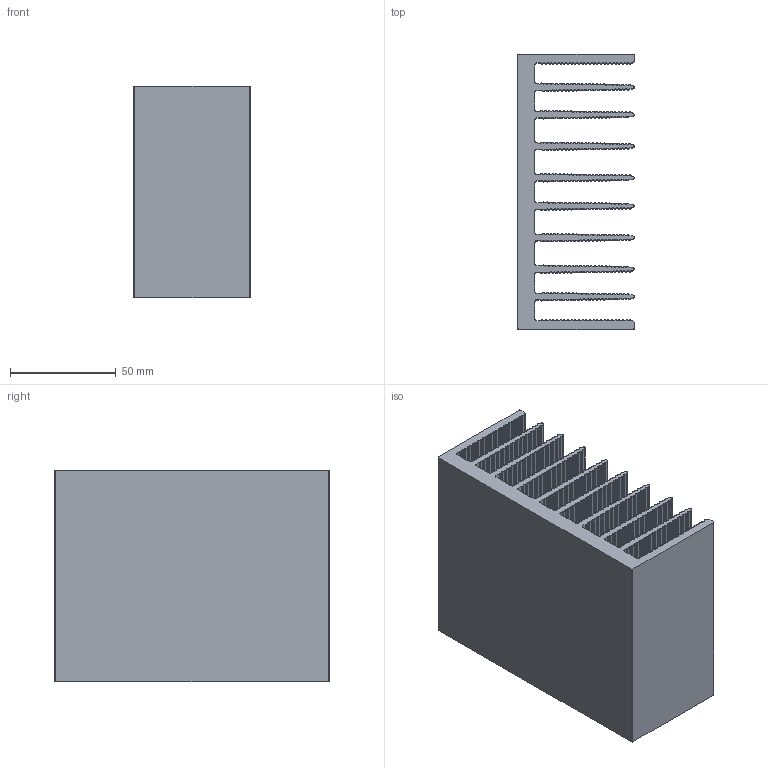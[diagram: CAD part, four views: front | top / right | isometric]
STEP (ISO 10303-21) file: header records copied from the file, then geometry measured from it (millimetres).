
FILE_DESCRIPTION (( 'STEP AP214' ), '1' );
FILE_NAME ('PR377.STEP', '2013-06-12T17:33:52', ( '' ), ( '' ), 'SwSTEP 2.0', 'SolidWorks 2013', '' );
FILE_SCHEMA (( 'AUTOMOTIVE_DESIGN' ));
Length unit declared in the file: millimetre
Products named in the file (1): PR377
Bounding box: 55 x 130 x 100 mm (x, y, z)
Volume: 245450.3 mm3; surface area: 139910.2 mm2
Topology: 1 solids, 1 shells, 1273 faces, 3813 edges, 2542 vertices
Faces by surface type: cylinder 1223, plane 50
Entity records: 44447 total; most frequent: DIRECTION 8807, CARTESIAN_POINT 7629, ORIENTED_EDGE 7626, EDGE_CURVE 3813, AXIS2_PLACEMENT_3D 3720, VERTEX_POINT 2542, CIRCLE 2446, VECTOR 1367
